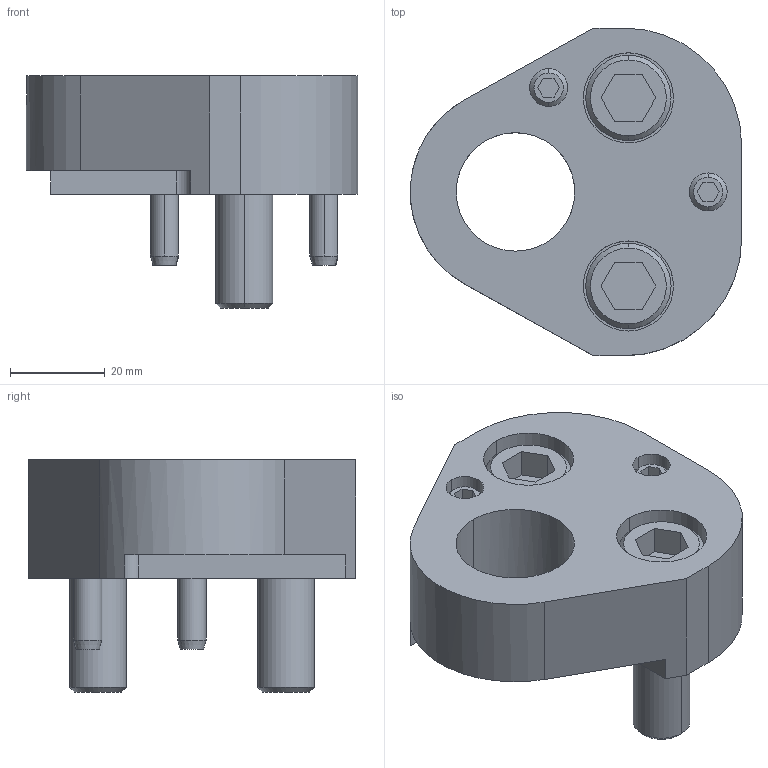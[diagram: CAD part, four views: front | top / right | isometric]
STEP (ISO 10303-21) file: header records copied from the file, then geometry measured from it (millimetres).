
FILE_DESCRIPTION(/* description */ (''),/* implementation_level */ '2;1');
FILE_NAME(/* name */ '3d_25crnfr25_03156_r00.stp',/* time_stamp */ '2011-01-10T14:17:51+09:00',/* author */ ('MISUMI'),/* organization */ (''),/* preprocessor_version */ 'ST-DEVELOPER v11',/* originating_system */ 'UGS - NX 5.0',/* authorisation */ '');
FILE_SCHEMA (('CONFIG_CONTROL_DESIGN'));
Length unit declared in the file: millimetre
Products named in the file (1): 3d_25crnfr25_03156_r00
Bounding box: 69.86 x 69.1 x 49 mm (x, y, z)
Volume: 78133.9 mm3; surface area: 23928.9 mm2
Topology: 7 solids, 7 shells, 136 faces, 305 edges, 196 vertices
Faces by surface type: plane 62, cylinder 48, cone 26
Entity records: 3934 total; most frequent: DIRECTION 696, CARTESIAN_POINT 695, ORIENTED_EDGE 610, EDGE_CURVE 305, AXIS2_PLACEMENT_3D 261, VERTEX_POINT 196, LINE 174, VECTOR 174
